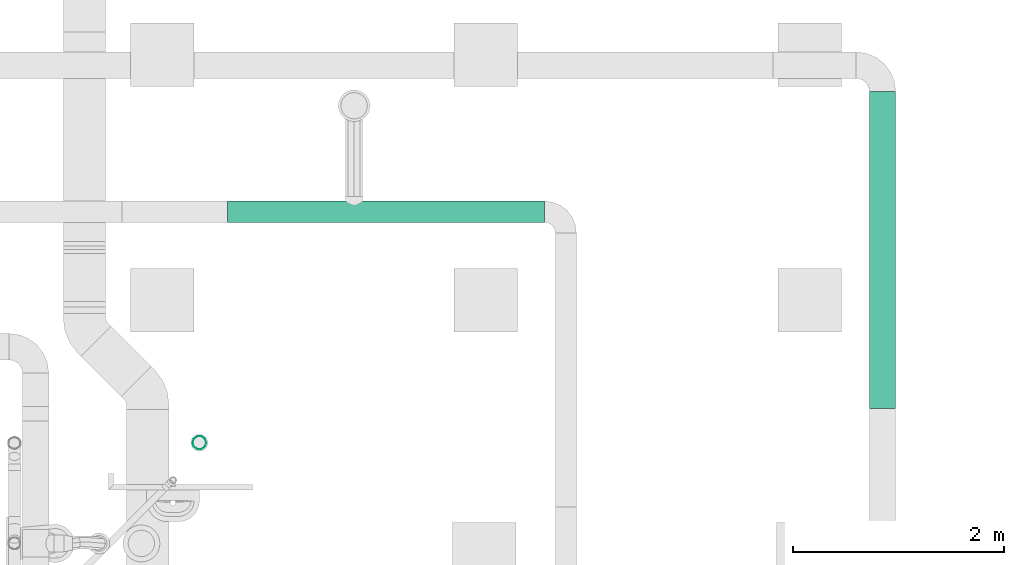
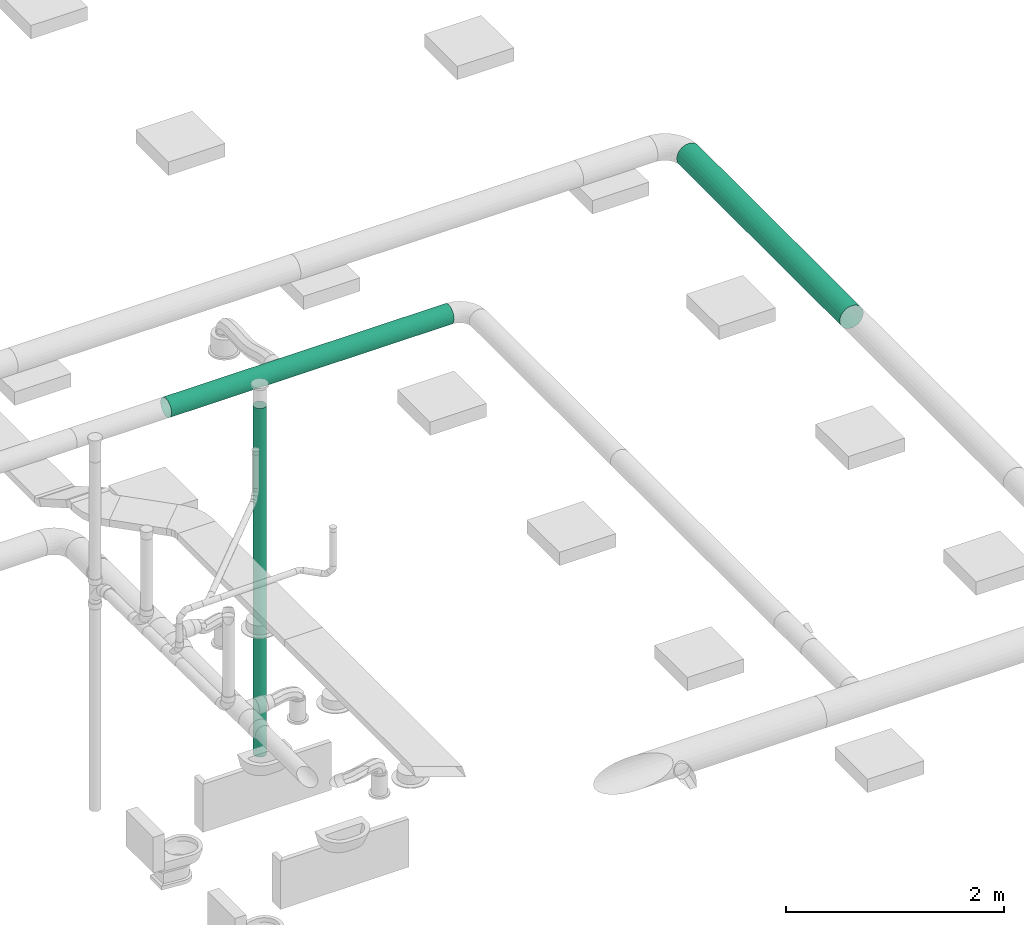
# One storey, part 5 of 119: 3 flow segments.
"""IFC2X3 building model written with IfcOpenShell, lengths in metres."""

from ifc_helpers import new_model, si_unit, direction, frame, origin, place, context, subcontext, project, spatial, open_shell, surface_model, source, transform, mapped, element, save


model = new_model("IFC2X3")

# Units and contexts
model_context = context("Model", 3, precision=1e-05, world=origin(), true_north=direction((-0.4480736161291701, 0.8939966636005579)))
body_context = subcontext(model_context, "Body", "Model", "MODEL_VIEW")
ifc_project = project(units=[si_unit("LENGTHUNIT", "METRE"), si_unit("AREAUNIT", "SQUARE_METRE"), si_unit("VOLUMEUNIT", "CUBIC_METRE"), si_unit("PLANEANGLEUNIT", "RADIAN"), si_unit("THERMODYNAMICTEMPERATUREUNIT", "KELVIN"), si_unit("MASSUNIT", "GRAM", prefix="KILO"), si_unit("TIMEUNIT", "SECOND")], contexts=[model_context])

# Site, building, storey
site_placement = place(None, origin())
site = spatial("IfcSite", under=ifc_project, at=site_placement, Name="Site 1", CompositionType="ELEMENT")
building_placement = place(site_placement, origin())
building = spatial("IfcBuilding", under=site, at=building_placement, Name="Undefined", CompositionType="ELEMENT")
storey_placement = place(building_placement, frame((0.0, 0.0, 5.4)))
storey = spatial("IfcBuildingStorey", under=building, at=storey_placement, Name="R+1", CompositionType="ELEMENT", Elevation=5.4)

# Flow segments
shared_shape_1 = source(origin(), body_context, "Body", "SurfaceModel", [
    surface_model("IfcFaceBasedSurfaceModel", [(0.0, 0.02610523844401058, 0.0), (0.0, 0.0, 0.0), (3.0, 0.0, 0.0), (3.0, 0.026105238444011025, 0.0), (0.0, -0.025215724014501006, -0.006756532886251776), (3.0, -0.02521572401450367, -0.006756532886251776), (0.0, -0.04782352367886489, -0.019809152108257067), (3.0, -0.04782352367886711, -0.019809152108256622), (0.0, -0.066282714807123, -0.038268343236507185), (3.0, -0.06628271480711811, -0.03826834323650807), (0.0, -0.07933533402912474, -0.06087614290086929), (3.0, -0.0793353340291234, -0.060876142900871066), (0.0, -0.08609186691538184, -0.08609186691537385), (3.0, -0.08609186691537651, -0.08609186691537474), (0.0, -0.08609186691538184, -0.11219710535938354), (3.0, -0.08609186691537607, -0.11219710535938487), (0.0, -0.07933533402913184, -0.1374128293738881), (3.0, -0.0793353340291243, -0.137412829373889), (0.0, -0.066282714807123, -0.16002062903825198), (3.0, -0.06628271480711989, -0.16002062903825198), (0.0, -0.04782352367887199, -0.17847982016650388), (3.0, -0.04782352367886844, -0.17847982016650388), (0.0, -0.025215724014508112, -0.19153243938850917), (3.0, -0.025215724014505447, -0.19153243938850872), (0.0, -7.105427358e-15, -0.19828897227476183), (3.0, -8.8817842e-16, -0.1982889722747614), (0.0, 0.026105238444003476, -0.19828897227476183), (3.0, 0.026105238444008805, -0.19828897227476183), (0.0, 0.05132096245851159, -0.19153243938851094), (3.0, 0.051320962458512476, -0.1915324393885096), (0.0, 0.07392876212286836, -0.17847982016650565), (3.0, 0.07392876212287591, -0.17847982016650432), (0.0, 0.09238795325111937, -0.16002062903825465), (3.0, 0.09238795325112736, -0.16002062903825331), (0.0, 0.10544057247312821, -0.13741282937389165), (3.0, 0.1054405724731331, -0.13741282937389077), (0.0, 0.11219710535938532, -0.11219710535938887), (3.0, 0.11219710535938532, -0.11219710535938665), (0.0, 0.11219710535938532, -0.08609186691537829), (3.0, 0.1121971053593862, -0.08609186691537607), (0.0, 0.10544057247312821, -0.06087614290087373), (3.0, 0.10544057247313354, -0.0608761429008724), (0.0, 0.09238795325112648, -0.03826834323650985), (3.0, 0.0923879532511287, -0.038268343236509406), (0.0, 0.07392876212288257, -0.019809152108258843), (3.0, 0.07392876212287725, -0.01980915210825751), (0.0, 0.05132096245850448, -0.006756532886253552), (3.0, 0.05132096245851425, -0.006756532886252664)], [open_shell([[[0, 1, 2, 3]], [[1, 4, 5, 2]], [[4, 6, 7, 5]], [[6, 8, 9, 7]], [[8, 10, 11, 9]], [[10, 12, 13, 11]], [[12, 14, 15, 13]], [[14, 16, 17, 15]], [[16, 18, 19, 17]], [[18, 20, 21, 19]], [[20, 22, 23, 21]], [[22, 24, 25, 23]], [[24, 26, 27, 25]], [[26, 28, 29, 27]], [[28, 30, 31, 29]], [[30, 32, 33, 31]], [[32, 34, 35, 33]], [[34, 36, 37, 35]], [[36, 38, 39, 37]], [[38, 40, 41, 39]], [[40, 42, 43, 41]], [[42, 44, 45, 43]], [[44, 46, 47, 45]], [[46, 0, 3, 47]]])]),
])
flow_segment_1_placement = place(storey_placement, origin())
element("IfcFlowSegment", 1, at=flow_segment_1_placement, inside=storey, Name="Tube", ObjectType="Tube", context=body_context, shape_type="MappedRepresentation", body=[
    mapped(shared_shape_1, transform((62.092633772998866, 15.978176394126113, 2.8715925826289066), x_axis=(-1.0, 0.0, 0.0), y_axis=(7.266545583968e-12, -0.9914448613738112, 0.13052619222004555), z_axis=(0.0, 0.13052619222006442, 0.9914448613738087))),
])
shared_shape_2 = source(origin(), body_context, "Body", "SurfaceModel", [
    surface_model("IfcFaceBasedSurfaceModel", [(0.0, 0.03263154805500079, 0.0), (0.0, 0.0, 0.0), (3.0, 0.0, 0.0), (3.0, 0.03263154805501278, -4.4408921e-16), (0.0, -0.031519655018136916, -0.008445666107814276), (3.0, -0.03151965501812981, -0.008445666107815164), (0.0, -0.05977940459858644, -0.024761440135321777), (3.0, -0.05977940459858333, -0.02476144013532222), (0.0, -0.08285339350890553, -0.047835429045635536), (3.0, -0.08285339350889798, -0.04783542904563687), (0.0, -0.09916916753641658, -0.07609517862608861), (3.0, -0.09916916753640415, -0.07609517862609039), (0.0, -0.1076148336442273, -0.10761483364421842), (3.0, -0.10761483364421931, -0.10761483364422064), (0.0, -0.1076148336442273, -0.14024638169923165), (3.0, -0.10761483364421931, -0.14024638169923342), (0.0, -0.09916916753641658, -0.17176603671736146), (3.0, -0.09916916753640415, -0.17176603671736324), (0.0, -0.08285339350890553, -0.2000257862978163), (3.0, -0.08285339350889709, -0.20002578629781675), (0.0, -0.059779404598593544, -0.22309977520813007), (3.0, -0.059779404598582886, -0.22309977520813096), (0.0, -0.03151965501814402, -0.23941554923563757), (3.0, -0.03151965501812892, -0.23941554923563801), (0.0, -1.4210854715e-14, -0.24786121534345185), (3.0, 8.8817842e-16, -0.24786121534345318), (0.0, 0.03263154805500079, -0.24786121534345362), (3.0, 0.032631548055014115, -0.24786121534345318), (0.0, 0.0641512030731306, -0.23941554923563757), (3.0, 0.06415120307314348, -0.23941554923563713), (0.0, 0.09241095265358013, -0.22309977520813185), (3.0, 0.092410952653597, -0.22309977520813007), (0.0, 0.11548494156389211, -0.2000257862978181), (3.0, 0.11548494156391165, -0.20002578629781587), (0.0, 0.13180071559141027, -0.171766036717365), (3.0, 0.13180071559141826, -0.1717660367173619), (0.0, 0.140246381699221, -0.1402463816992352), (3.0, 0.14024638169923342, -0.14024638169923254), (0.0, 0.140246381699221, -0.10761483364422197), (3.0, 0.14024638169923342, -0.10761483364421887), (0.0, 0.13180071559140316, -0.07609517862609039), (3.0, 0.13180071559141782, -0.07609517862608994), (0.0, 0.11548494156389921, -0.04783542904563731), (3.0, 0.11548494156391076, -0.047835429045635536), (0.0, 0.09241095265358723, -0.024761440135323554), (3.0, 0.09241095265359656, -0.024761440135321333), (0.0, 0.06415120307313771, -0.008445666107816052), (3.0, 0.06415120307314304, -0.008445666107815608)], [open_shell([[[0, 1, 2, 3]], [[1, 4, 5, 2]], [[4, 6, 7, 5]], [[6, 8, 9, 7]], [[8, 10, 11, 9]], [[10, 12, 13, 11]], [[12, 14, 15, 13]], [[14, 16, 17, 15]], [[16, 18, 19, 17]], [[18, 20, 21, 19]], [[20, 22, 23, 21]], [[22, 24, 25, 23]], [[24, 26, 27, 25]], [[26, 28, 29, 27]], [[28, 30, 31, 29]], [[30, 32, 33, 31]], [[32, 34, 35, 33]], [[34, 36, 37, 35]], [[36, 38, 39, 37]], [[38, 40, 41, 39]], [[40, 42, 43, 41]], [[42, 44, 45, 43]], [[44, 46, 47, 45]], [[46, 0, 3, 47]]])]),
])
flow_segment_2_placement = place(storey_placement, origin())
element("IfcFlowSegment", 2, at=flow_segment_2_placement, inside=storey, Name="Tube", ObjectType="Tube", context=body_context, shape_type="MappedRepresentation", body=[
    mapped(shared_shape_2, transform((65.25765520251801, 17.089283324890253, 2.8707407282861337), x_axis=(0.0, -1.0, 0.0), y_axis=(0.9914448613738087, 0.0, 0.13052619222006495), z_axis=(-0.13052619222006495, 0.0, 0.9914448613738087))),
])
shared_shape_3 = source(origin(), body_context, "Body", "SurfaceModel", [
    surface_model("IfcFaceBasedSurfaceModel", [(0.0, 0.0163157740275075, 0.0), (0.0, 0.0, 0.0), (3.9102500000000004, 0.0, 7.105427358e-15), (3.9102500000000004, 0.0163157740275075, 0.0), (0.0, -0.015759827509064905, -0.004222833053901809), (3.9102500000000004, -0.015759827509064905, -0.004222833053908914), (0.0, -0.029889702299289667, -0.012380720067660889), (3.9102500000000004, -0.029889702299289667, -0.012380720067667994), (0.0, -0.04142669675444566, -0.02391771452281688), (3.9102500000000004, -0.04142669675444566, -0.02391771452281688), (0.0, -0.04958458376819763, -0.038047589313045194), (3.9102500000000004, -0.04958458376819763, -0.038047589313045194), (0.0, -0.053807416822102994, -0.053807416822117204), (3.9102500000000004, -0.053807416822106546, -0.0538074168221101), (0.0, -0.053807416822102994, -0.07012319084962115), (3.9102500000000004, -0.053807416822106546, -0.07012319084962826), (0.0, -0.04958458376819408, -0.08588301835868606), (3.9102500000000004, -0.04958458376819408, -0.08588301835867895), (0.0, -0.04142669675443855, -0.10001289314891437), (3.9102500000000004, -0.04142669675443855, -0.10001289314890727), (0.0, -0.02988970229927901, -0.11154988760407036), (3.9102500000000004, -0.02988970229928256, -0.11154988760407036), (0.0, -0.015759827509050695, -0.11970777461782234), (3.9102500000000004, -0.015759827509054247, -0.11970777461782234), (0.0, 1.4210854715e-14, -0.12393060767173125), (3.9102500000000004, 1.0658141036e-14, -0.12393060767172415), (0.0, 0.016315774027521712, -0.12393060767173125), (3.9102500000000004, 0.016315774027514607, -0.12393060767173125), (0.0, 0.03207560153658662, -0.11970777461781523), (3.9102500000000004, 0.032075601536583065, -0.11970777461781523), (0.0, 0.04620547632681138, -0.11154988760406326), (3.9102500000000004, 0.046205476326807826, -0.11154988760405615), (0.0, 0.05774247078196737, -0.10001289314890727), (3.9102500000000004, 0.05774247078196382, -0.10001289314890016), (0.0, 0.06590035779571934, -0.08588301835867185), (3.9102500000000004, 0.06590035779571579, -0.08588301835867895), (0.0, 0.0701231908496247, -0.07012319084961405), (3.9102500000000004, 0.0701231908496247, -0.07012319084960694), (0.0, 0.0701231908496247, -0.05380741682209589), (3.9102500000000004, 0.0701231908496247, -0.05380741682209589), (0.0, 0.06590035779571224, -0.03804758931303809), (3.9102500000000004, 0.06590035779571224, -0.03804758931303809), (0.0, 0.05774247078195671, -0.023917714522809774), (3.9102500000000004, 0.05774247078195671, -0.02391771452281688), (0.0, 0.04620547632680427, -0.012380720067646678), (3.9102500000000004, 0.04620547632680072, -0.012380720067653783), (0.0, 0.03207560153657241, -0.004222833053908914), (3.9102500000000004, 0.03207560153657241, -0.004222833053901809)], [open_shell([[[0, 1, 2, 3]], [[1, 4, 5, 2]], [[4, 6, 7, 5]], [[6, 8, 9, 7]], [[8, 10, 11, 9]], [[10, 12, 13, 11]], [[12, 14, 15, 13]], [[14, 16, 17, 15]], [[16, 18, 19, 17]], [[18, 20, 21, 19]], [[20, 22, 23, 21]], [[22, 24, 25, 23]], [[24, 26, 27, 25]], [[26, 28, 29, 27]], [[28, 30, 31, 29]], [[30, 32, 33, 31]], [[32, 34, 35, 33]], [[34, 36, 37, 35]], [[36, 38, 39, 37]], [[38, 40, 41, 39]], [[40, 42, 43, 41]], [[42, 44, 45, 43]], [[44, 46, 47, 45]], [[46, 0, 3, 47]]])]),
])
flow_segment_3_placement = place(storey_placement, origin())
element("IfcFlowSegment", 3, at=flow_segment_3_placement, inside=storey, Name="PE-HD tuyau", ObjectType="PE-HD tuyau", context=body_context, shape_type="MappedRepresentation", body=[
    mapped(shared_shape_3, transform((58.764522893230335, 13.781176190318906, 4.225), x_axis=(0.0, 0.0, -1.0), y_axis=(-0.13052619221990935, -0.9914448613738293, 0.0), z_axis=(-0.9914448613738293, 0.13052619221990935, 0.0))),
])

save(model, "model.ifc")
